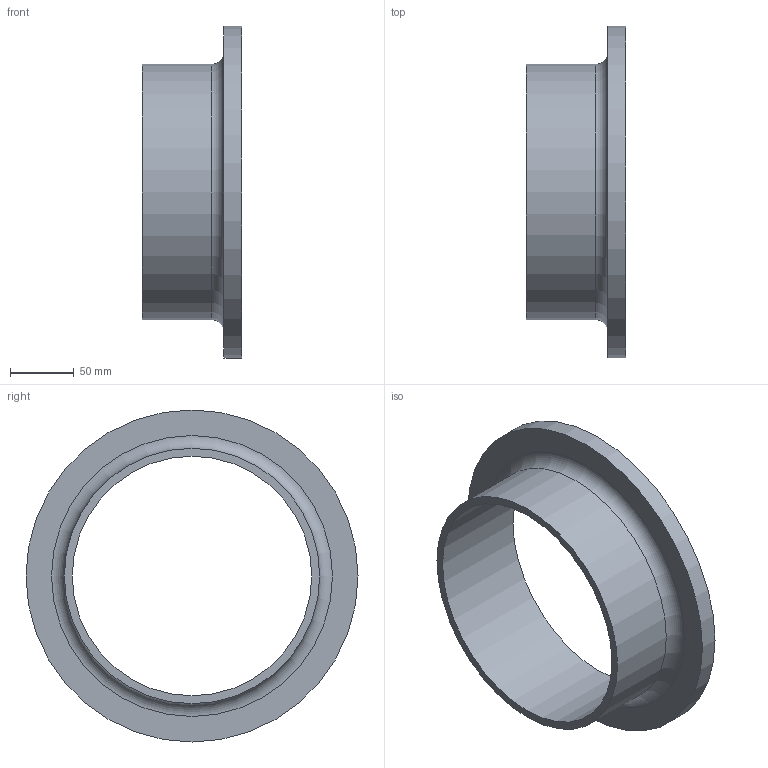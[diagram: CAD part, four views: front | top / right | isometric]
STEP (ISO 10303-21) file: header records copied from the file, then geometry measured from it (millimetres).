
FILE_DESCRIPTION((''),'2;1');
FILE_NAME('F:\Geberit_PE\Export\PE Vorschweissbund 3\stp\370744.stp','2011-03-17T21:45:47',(''),(''),'Autodesk Inventor 2011','Autodesk Inventor 2011','');
FILE_SCHEMA(('AUTOMOTIVE_DESIGN { 1 2 10303 214 0 1 1 1 }'));
Length unit declared in the file: millimetre
Products named in the file (1): 370744
Bounding box: 78 x 260 x 260 mm (x, y, z)
Volume: 609587.1 mm3; surface area: 147618.3 mm2
Topology: 1 solids, 1 shells, 16 faces, 26 edges, 16 vertices
Faces by surface type: plane 6, cone 6, cylinder 3, torus 1
Full cylindrical faces by diameter (mm): 187.6 x1, 200 x1, 260 x1
Entity records: 354 total; most frequent: DIRECTION 66, CARTESIAN_POINT 49, AXIS2_PLACEMENT_3D 33, ORIENTED_EDGE 32, EDGE_LOOP 32, VERTEX_POINT 16, CIRCLE 16, EDGE_CURVE 16
